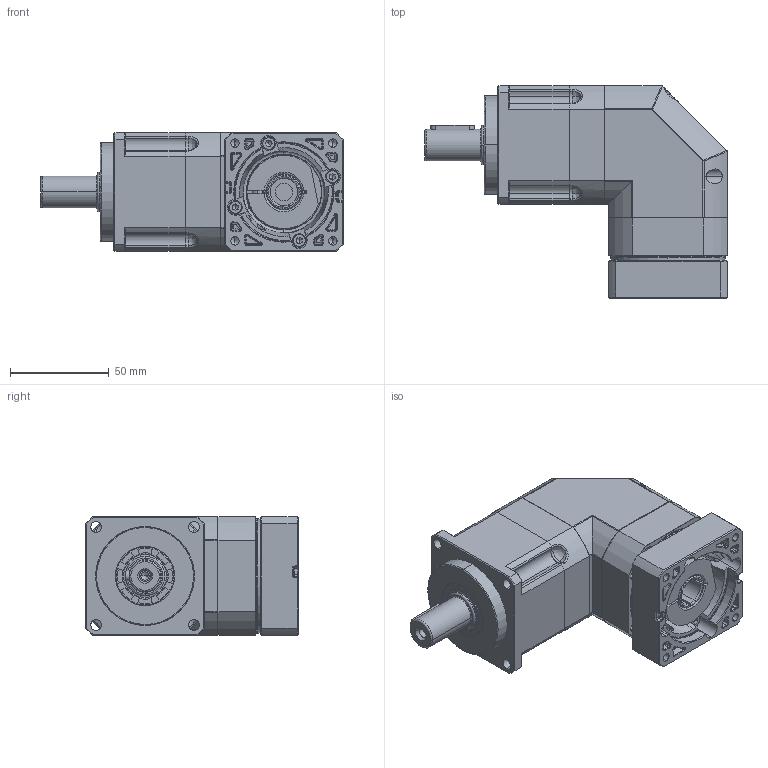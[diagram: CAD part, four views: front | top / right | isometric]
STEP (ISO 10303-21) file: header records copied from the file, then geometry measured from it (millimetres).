
FILE_DESCRIPTION (( 'STEP AP214' ), '1' );
FILE_NAME ('FABR060D-L1-14-50-70-M5-33.STEP', '2021-04-24T10:40:38', ( '微软用户' ), ( '微软中国' ), 'SwSTEP 2.0', 'SolidWorks 2014', '' );
FILE_SCHEMA (( 'AUTOMOTIVE_DESIGN' ));
Length unit declared in the file: millimetre
Products named in the file (28): hex socket set screws with cone point gb_GB_FASTENER_SCREWS_HSCP M10X10-N; PAR060D齿圈; 输入轴PAR060D-14; 珨撰眻褒眊极PAR060D; 蚐猾20304; 2-输入端壳体PAR060D; PAR060D-50-70-M5+1; 7-怀堤傷褲极PAR060D; A倰す瑩5-22; 坶踡遠18-37-12(1); hexagon socket head cap screws gb_GB_FASTENER_SCREWS_HSHCS M4X16-N; PAR060D怀堤俴陎殤1; FABR060D-L1-14-50-70-M5-33
Assembly tree (15 placements, depth 2):
  hex socket set screws with cone point gb_GB_FASTENER_SCREWS_HSCP M10X10-N
  输入轴PAR060D-14
  蚐猾20304
  PAR060D-50-70-M5+1
  A倰す瑩5-22
Bounding box: 153 x 107.5 x 60 mm (x, y, z)
Volume: 515335 mm3; surface area: 100188.4 mm2
Topology: 16 solids, 17 shells, 1062 faces, 2576 edges, 1535 vertices
Faces by surface type: cylinder 353, plane 299, bspline 211, cone 191, torus 8
Entity records: 49751 total; most frequent: CARTESIAN_POINT 16177, ORIENTED_EDGE 4692, DIRECTION 4524, EDGE_CURVE 2346, AXIS2_PLACEMENT_3D 1802, VERTEX_POINT 1436, EDGE_LOOP 1084, UNCERTAINTY_MEASURE_WITH_UNIT 1025
